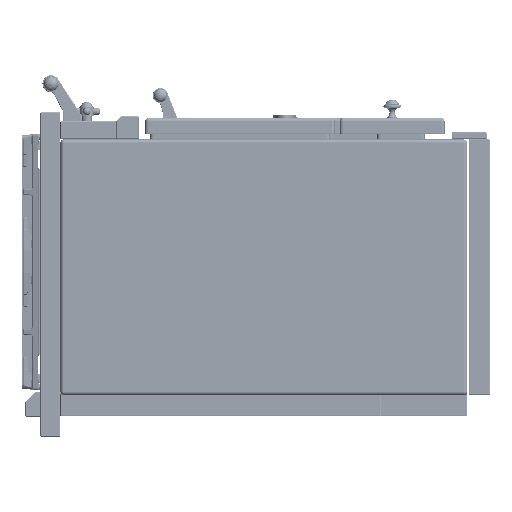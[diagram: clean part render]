
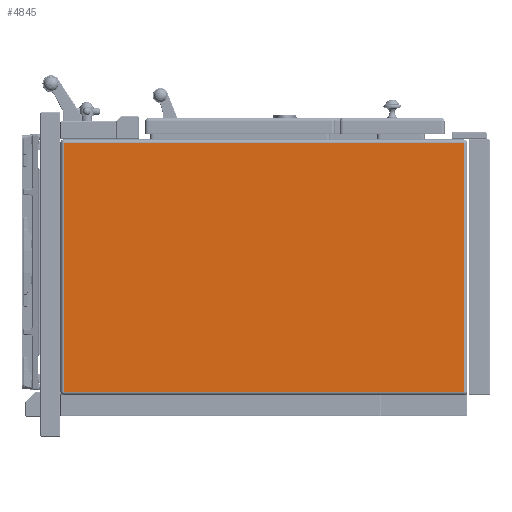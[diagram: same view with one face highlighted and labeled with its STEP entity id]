
A CAD part, left-side view. The second image highlights one B-rep face of the part: STEP entity #4845.
In plain terms, the highlighted planar face has unit normal (-1, 0, 0).
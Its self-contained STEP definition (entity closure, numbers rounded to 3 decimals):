
#1082=DIRECTION('',(0.,1.,0.));
#1083=VECTOR('',#1082,801.);
#1084=CARTESIAN_POINT('',(-700.,52.5,249.));
#1085=LINE('',#1084,#1083);
#1086=DIRECTION('',(0.,0.,1.));
#1087=VECTOR('',#1086,498.);
#1088=CARTESIAN_POINT('',(-700.,52.5,-249.));
#1089=LINE('',#1088,#1087);
#1090=DIRECTION('',(0.,-1.,0.));
#1091=VECTOR('',#1090,801.);
#1092=CARTESIAN_POINT('',(-700.,853.5,-249.));
#1093=LINE('',#1092,#1091);
#1094=DIRECTION('',(0.,0.,-1.));
#1095=VECTOR('',#1094,498.);
#1096=CARTESIAN_POINT('',(-700.,853.5,249.));
#1097=LINE('',#1096,#1095);
#2810=CARTESIAN_POINT('',(-700.,52.5,249.));
#2811=CARTESIAN_POINT('',(-700.,853.5,249.));
#2812=VERTEX_POINT('',#2810);
#2813=VERTEX_POINT('',#2811);
#2814=CARTESIAN_POINT('',(-700.,52.5,-249.));
#2815=VERTEX_POINT('',#2814);
#2838=CARTESIAN_POINT('',(-700.,853.5,-249.));
#2839=VERTEX_POINT('',#2838);
#4831=CARTESIAN_POINT('',(-700.,0.,0.));
#4832=DIRECTION('',(1.,0.,0.));
#4833=DIRECTION('',(0.,0.,-1.));
#4834=AXIS2_PLACEMENT_3D('',#4831,#4832,#4833);
#4835=PLANE('',#4834);
#4837=ORIENTED_EDGE('',*,*,#4836,.F.);
#4839=ORIENTED_EDGE('',*,*,#4838,.F.);
#4840=ORIENTED_EDGE('',*,*,#4822,.F.);
#4842=ORIENTED_EDGE('',*,*,#4841,.F.);
#4843=EDGE_LOOP('',(#4837,#4839,#4840,#4842));
#4844=FACE_OUTER_BOUND('',#4843,.F.);
#4822=EDGE_CURVE('',#2839,#2815,#1093,.T.);
#4836=EDGE_CURVE('',#2812,#2813,#1085,.T.);
#4838=EDGE_CURVE('',#2815,#2812,#1089,.T.);
#4841=EDGE_CURVE('',#2813,#2839,#1097,.T.);
#4845=ADVANCED_FACE('',(#4844),#4835,.F.);
